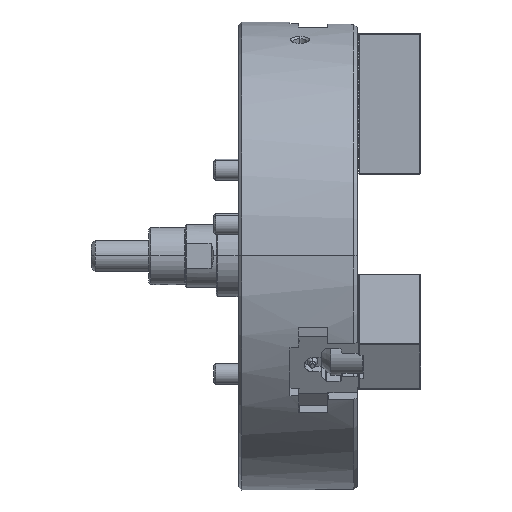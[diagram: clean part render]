
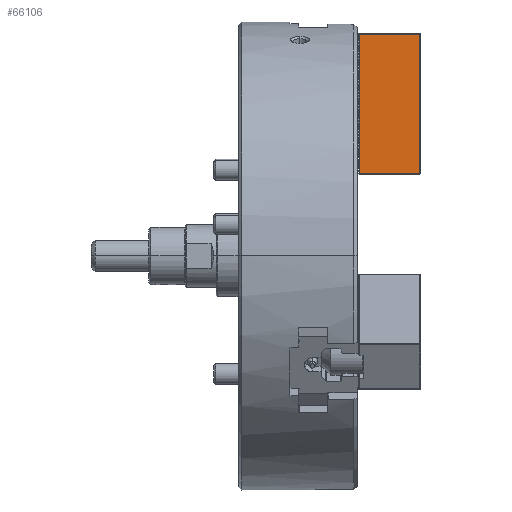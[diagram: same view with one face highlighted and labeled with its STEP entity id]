
A CAD part, top view. The second image highlights one B-rep face of the part: STEP entity #66106.
In plain terms, the highlighted planar face has unit normal (0, 0, 1).
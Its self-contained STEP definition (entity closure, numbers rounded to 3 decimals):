
#3741 = CARTESIAN_POINT ( 'NONE',  ( 1.4, 0., 25. ) ) ;
#21305 = EDGE_CURVE ( 'NONE', #47883, #78418, #60627, .T. ) ;
#21925 = VERTEX_POINT ( 'NONE', #90582 ) ;
#21945 = FACE_OUTER_BOUND ( 'NONE', #71108, .T. ) ;
#37807 = DIRECTION ( 'NONE',  ( 0., 1., 0. ) ) ;
#44814 = ORIENTED_EDGE ( 'NONE', *, *, #66385, .F. ) ;
#47883 = VERTEX_POINT ( 'NONE', #160441 ) ;
#55450 = EDGE_CURVE ( 'NONE', #132244, #21925, #147781, .T. ) ;
#60627 = LINE ( 'NONE', #92383, #161617 ) ;
#66106 = ADVANCED_FACE ( 'NONE', ( #21945 ), #167924, .F. ) ;
#66385 = EDGE_CURVE ( 'NONE', #21925, #78418, #180436, .T. ) ;
#68434 = DIRECTION ( 'NONE',  ( -1., 0., 0. ) ) ;
#71108 = EDGE_LOOP ( 'NONE', ( #147791, #203730, #130501, #44814 ) ) ;
#78418 = VERTEX_POINT ( 'NONE', #183849 ) ;
#80005 = LINE ( 'NONE', #143508, #116076 ) ;
#83849 = EDGE_CURVE ( 'NONE', #132244, #47883, #80005, .T. ) ;
#90582 = CARTESIAN_POINT ( 'NONE',  ( 1.4, 0.6, 25. ) ) ;
#92383 = CARTESIAN_POINT ( 'NONE',  ( 60., 134.4, 25. ) ) ;
#116076 = VECTOR ( 'NONE', #206005, 1000. ) ;
#121044 = DIRECTION ( 'NONE',  ( -1., 0., 0. ) ) ;
#121384 = CARTESIAN_POINT ( 'NONE',  ( 60., 0.6, 25. ) ) ;
#130501 = ORIENTED_EDGE ( 'NONE', *, *, #21305, .T. ) ;
#132244 = VERTEX_POINT ( 'NONE', #161098 ) ;
#143508 = CARTESIAN_POINT ( 'NONE',  ( 59.4, 134.4, 25. ) ) ;
#144728 = AXIS2_PLACEMENT_3D ( 'NONE', #121384, #184863, #37807 ) ;
#147781 = LINE ( 'NONE', #161580, #159564 ) ;
#147791 = ORIENTED_EDGE ( 'NONE', *, *, #55450, .F. ) ;
#151413 = VECTOR ( 'NONE', #168726, 1000. ) ;
#159564 = VECTOR ( 'NONE', #68434, 1000. ) ;
#160441 = CARTESIAN_POINT ( 'NONE',  ( 59.4, 134.4, 25. ) ) ;
#161098 = CARTESIAN_POINT ( 'NONE',  ( 59.4, 0.6, 25. ) ) ;
#161580 = CARTESIAN_POINT ( 'NONE',  ( 60., 0.6, 25. ) ) ;
#161617 = VECTOR ( 'NONE', #121044, 1000. ) ;
#167924 = PLANE ( 'NONE',  #144728 ) ;
#168726 = DIRECTION ( 'NONE',  ( 0., 1., 0. ) ) ;
#180436 = LINE ( 'NONE', #3741, #151413 ) ;
#183849 = CARTESIAN_POINT ( 'NONE',  ( 1.4, 134.4, 25. ) ) ;
#184863 = DIRECTION ( 'NONE',  ( 0., 0., -1. ) ) ;
#203730 = ORIENTED_EDGE ( 'NONE', *, *, #83849, .T. ) ;
#206005 = DIRECTION ( 'NONE',  ( 0., 1., 0. ) ) ;
